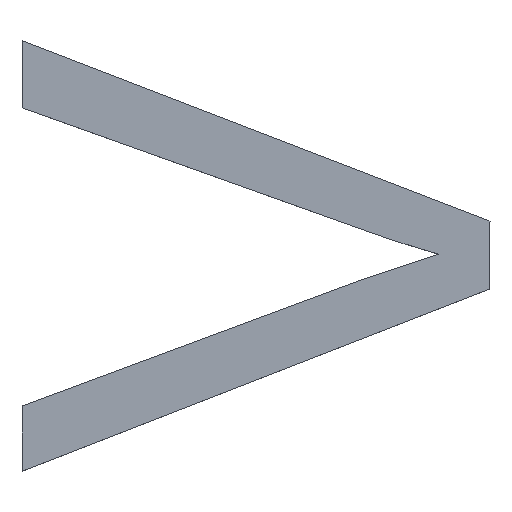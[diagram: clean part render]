
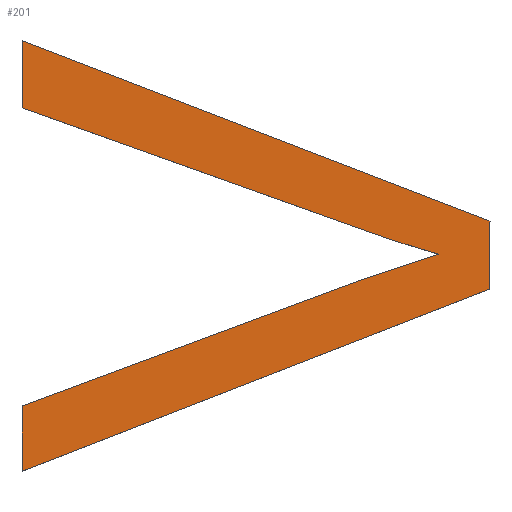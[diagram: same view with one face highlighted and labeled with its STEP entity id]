
A CAD part, top view. The second image highlights one B-rep face of the part: STEP entity #201.
In plain terms, the highlighted planar face has unit normal (0, 0, 1).
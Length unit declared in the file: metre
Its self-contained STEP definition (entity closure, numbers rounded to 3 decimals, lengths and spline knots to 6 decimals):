
#13=CIRCLE('',#216,0.002165);
#18=B_SPLINE_CURVE_WITH_KNOTS('',3,(#315,#316,#317,#318),.UNSPECIFIED.,
 .F.,.F.,(4,4),(0.000002,1.),.UNSPECIFIED.);
#56=ORIENTED_EDGE('',*,*,#100,.T.);
#57=ORIENTED_EDGE('',*,*,#98,.T.);
#58=ORIENTED_EDGE('',*,*,#95,.T.);
#59=ORIENTED_EDGE('',*,*,#92,.T.);
#60=ORIENTED_EDGE('',*,*,#89,.T.);
#61=ORIENTED_EDGE('',*,*,#86,.T.);
#62=ORIENTED_EDGE('',*,*,#83,.T.);
#63=ORIENTED_EDGE('',*,*,#80,.T.);
#64=ORIENTED_EDGE('',*,*,#77,.T.);
#77=EDGE_CURVE('',#101,#104,#122,.T.);
#80=EDGE_CURVE('',#105,#101,#125,.F.);
#83=EDGE_CURVE('',#107,#105,#128,.T.);
#86=EDGE_CURVE('',#109,#107,#131,.T.);
#89=EDGE_CURVE('',#111,#109,#133,.T.);
#92=EDGE_CURVE('',#113,#111,#18,.T.);
#95=EDGE_CURVE('',#115,#113,#13,.F.);
#98=EDGE_CURVE('',#117,#115,#137,.T.);
#100=EDGE_CURVE('',#104,#117,#139,.T.);
#101=VERTEX_POINT('',#273);
#104=VERTEX_POINT('',#278);
#105=VERTEX_POINT('',#282);
#107=VERTEX_POINT('',#288);
#109=VERTEX_POINT('',#294);
#111=VERTEX_POINT('',#303);
#113=VERTEX_POINT('',#309);
#115=VERTEX_POINT('',#324);
#117=VERTEX_POINT('',#330);
#122=LINE('',#279,#143);
#125=LINE('',#285,#146);
#128=LINE('',#291,#149);
#131=LINE('',#297,#152);
#133=LINE('',#306,#154);
#137=LINE('',#333,#158);
#139=LINE('',#336,#160);
#143=VECTOR('',#228,1.);
#146=VECTOR('',#233,1.);
#149=VECTOR('',#238,1.);
#152=VECTOR('',#243,1.);
#154=VECTOR('',#247,1.);
#158=VECTOR('',#261,1.);
#160=VECTOR('',#265,1.);
#170=EDGE_LOOP('',(#56,#57,#58,#59,#60,#61,#62,#63,#64));
#181=FACE_BOUND('',#170,.T.);
#190=PLANE('',#219);
#201=ADVANCED_FACE('',(#181),#190,.F.);
#216=AXIS2_PLACEMENT_3D('',#327,#255,#256);
#219=AXIS2_PLACEMENT_3D('',#337,#266,#267);
#228=DIRECTION('',(-0.933,0.359,0.));
#233=DIRECTION('',(0.,-1.,0.));
#238=DIRECTION('',(0.932,0.363,0.));
#243=DIRECTION('',(0.,-1.,0.));
#247=DIRECTION('',(-0.937,-0.348,0.));
#255=DIRECTION('',(0.,0.,-1.));
#256=DIRECTION('',(1.,0.,0.));
#261=DIRECTION('',(0.942,-0.337,0.));
#265=DIRECTION('',(0.,-1.,0.));
#266=DIRECTION('',(0.,0.,-1.));
#267=DIRECTION('',(0.,-1.,0.));
#273=CARTESIAN_POINT('',(-0.022188,-0.000364,-0.03));
#278=CARTESIAN_POINT('',(-0.023123,-0.000004,-0.03));
#279=CARTESIAN_POINT('',(-0.022188,-0.000364,-0.03));
#282=CARTESIAN_POINT('',(-0.022188,-0.0005,-0.03));
#285=CARTESIAN_POINT('',(-0.022188,-0.000433,-0.03));
#288=CARTESIAN_POINT('',(-0.023123,-0.000864,-0.03));
#291=CARTESIAN_POINT('',(-0.023123,-0.000864,-0.03));
#294=CARTESIAN_POINT('',(-0.023123,-0.000734,-0.03));
#297=CARTESIAN_POINT('',(-0.023123,-0.000433,-0.03));
#303=CARTESIAN_POINT('',(-0.022444,-0.000481,-0.03));
#306=CARTESIAN_POINT('',(-0.022444,-0.000481,-0.03));
#309=CARTESIAN_POINT('',(-0.02229,-0.000431,-0.03));
#315=CARTESIAN_POINT('',(-0.02229,-0.000431,-0.03));
#316=CARTESIAN_POINT('',(-0.022341,-0.000445,-0.03));
#317=CARTESIAN_POINT('',(-0.022393,-0.000462,-0.03));
#318=CARTESIAN_POINT('',(-0.022444,-0.000481,-0.03));
#324=CARTESIAN_POINT('',(-0.022444,-0.000382,-0.03));
#327=CARTESIAN_POINT('',(-0.021705,0.001654,-0.03));
#330=CARTESIAN_POINT('',(-0.023123,-0.000139,-0.03));
#333=CARTESIAN_POINT('',(-0.023123,-0.000139,-0.03));
#336=CARTESIAN_POINT('',(-0.023123,-0.000433,-0.03));
#337=CARTESIAN_POINT('',(-0.022692,-0.000433,-0.03));
